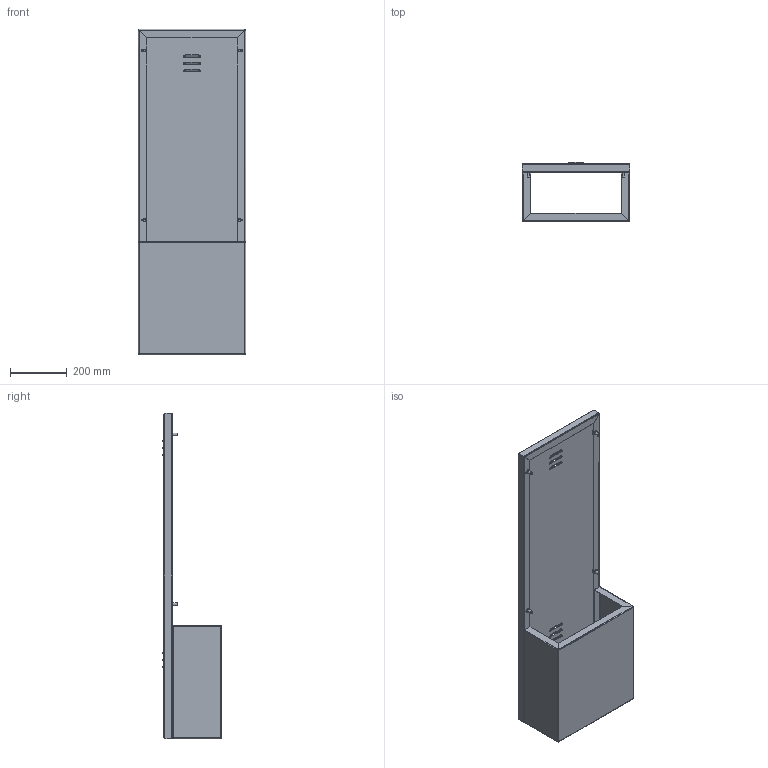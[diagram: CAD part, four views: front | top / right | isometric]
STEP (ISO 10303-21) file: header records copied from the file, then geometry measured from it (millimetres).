
FILE_DESCRIPTION(/* description */ ('Unknown'),/* implementation_level */ '2;1');
FILE_NAME(/* name */ 'PF-01',/* time_stamp */ '2025-09-11T13:30:19+03:00',/* author */ ('Unknown'),/* organization */ ('Unknown'),/* preprocessor_version */ 'ST-DEVELOPER v18.102',/* originating_system */ 'Solid Edge',/* authorisation */ 'Unknown');
FILE_SCHEMA (('CONFIG_CONTROL_DESIGN'));
Length unit declared in the file: millimetre
Products named in the file (4): PF-01.000.00 Îïîðà ìîíòàæíàÿ; PF-01.000.02 Ñòåíêà çàäíÿÿ; PF-01.000.01 Êîðîá; 鍔錓_M10x20_DIN_933
Assembly tree (6 placements, depth 2):
  PF-01.000.00 Îïîðà ìîíòàæíàÿ
    PF-01.000.02 Ñòåíêà çàäíÿÿ
    PF-01.000.01 Êîðîá
    鍔錓_M10x20_DIN_933  x4
Bounding box: 380 x 208 x 1150 mm (x, y, z)
Volume: 1419882.2 mm3; surface area: 1893325.5 mm2
Topology: 6 solids, 6 shells, 352 faces, 808 edges, 460 vertices
Faces by surface type: plane 154, cylinder 90, torus 28, bspline 28, cone 28, sphere 24
Full cylindrical faces by diameter (mm): 4 x4, 8.16 x4, 10 x8, 13 x8, 14.63 x4
Entity records: 9362 total; most frequent: CARTESIAN_POINT 2905, DIRECTION 1300, ORIENTED_EDGE 1240, EDGE_CURVE 620, AXIS2_PLACEMENT_3D 483, VERTEX_POINT 368, EDGE_LOOP 338, FACE_BOUND 338
